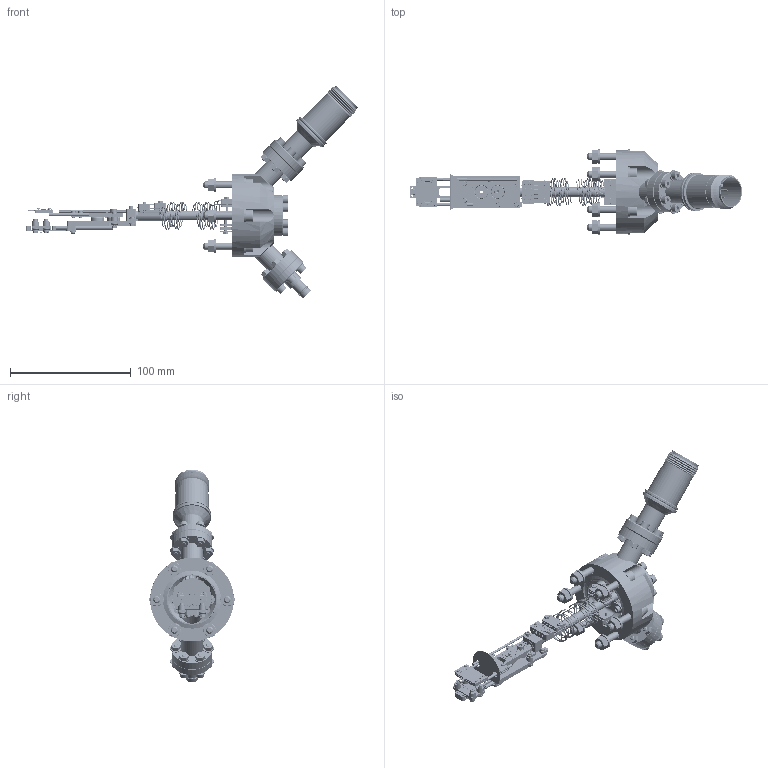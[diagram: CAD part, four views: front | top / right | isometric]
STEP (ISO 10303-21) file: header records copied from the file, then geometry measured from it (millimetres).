
FILE_DESCRIPTION(('Confidential','CAx-IF Rec.Pracs.--- Model Styling and Organization---1.2---2011-12-15'),'2;1');
FILE_NAME('W:\KONSTRUKTION\PRODUCTS\HS\HSAS\HSASOM\HSASOM40\HSASOM40(EB)\Step Files\HSASOM40(EB)-0171-0002_Rev_D_20230616.stp','2023-06-16T14:35:08+00:00',('none'),('Ferrovac AG'),'CATIA Version 5 Release 21 SP 6 (IN-10)','CATIA V5 STEP AP214','PROPERTY OF FERROVAC AG');
FILE_SCHEMA(('AUTOMOTIVE_DESIGN { 1 0 10303 214 1 1 1 1 }'));
Products named in the file (103): HSASOM40(EB); MPCF40X3CF16IA; MainBody_60374; TFCF16T-1_60374; ADHSASCF16INSERT-0122; 24651; 24650-0122.3; 60554; HSOMEB; HSEBBODY; 254; 473; 624; 3023; 3024; 3026; 3055; 10651; 23804; 24173; 17103010; 17102010; 18102004; 18102006; 18102008; 18102012; 18302004; 25102000; 26102000; 32103000; HSEBHEAT; 25200; HSEEBHEATO12; 25201; 10658; 23808; 40017-0050; 18101604; 18302010; 26302000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
Assembly tree (211 placements, depth 6):
  HSASOM40(EB)
    MPCF40X3CF16IA
      MainBody_60374
      TFCF16T-1_60374  x2
    ADHSASCF16INSERT-0122
      24651
      24650-0122.3
      60554
    HSOMEB
      HSEBBODY
        254  x3
        473
        624
        3023
        3024
        3026
        3055
        10651  x4
        23804
        24173
        17103010
        17102010
        18102004
        18102006
        18102008  x2
        18102012
        18302004  x4
        25102000  x2
        26102000  x9
        32103000  x2
      HSEBHEAT
        25200
        HSEEBHEATO12
          473  x4
          25201
          624  x4
          10658  x2
          23808
          40017-0050
          18101604  x4
          18302010  x4
          25102000  x4
          26102000  x8
          26302000  x8
          26101600  x4
      HSEBRECOMO12
        RECOMHS
          SHOM
            41006(MMMM)
          3401
          23802  x2
          23803  x2
          18401403  x4
        641  x2
        3403
        40019-0062
        18401403  x2
    EFCF16SHV5(GSE)
      60434
    24464
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Bounding box: 275.52 x 70.7 x 176.68 mm (x, y, z)
Volume: 162979.6 mm3; surface area: 139585.3 mm2
Topology: 270 solids, 270 shells, 5395 faces, 12626 edges, 7943 vertices
Faces by surface type: cylinder 2277, plane 1828, cone 602, torus 500, bspline 180, extrusion 8
Entity records: 81806 total; most frequent: CARTESIAN_POINT 27195, ORIENTED_EDGE 11524, DIRECTION 9114, EDGE_CURVE 5762, AXIS2_PLACEMENT_3D 4601, VERTEX_POINT 3602, EDGE_LOOP 2900, CIRCLE 2471
